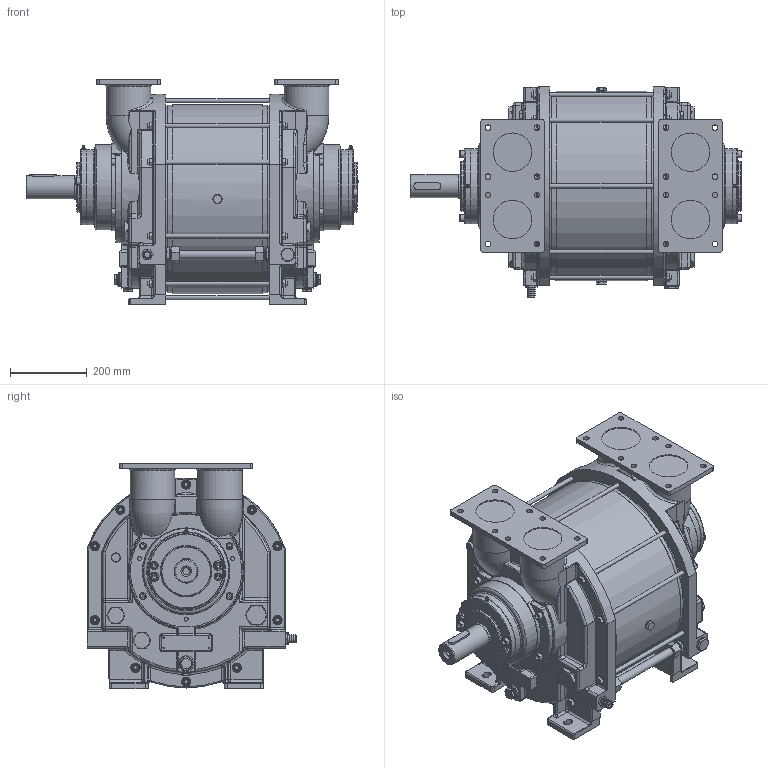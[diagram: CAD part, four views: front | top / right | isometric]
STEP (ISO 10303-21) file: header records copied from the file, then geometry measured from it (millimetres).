
FILE_DESCRIPTION(/* description */ ('','CAx-IF Rec.Pracs.---Representation and Presentation of Product Manufacturing Information (PMI)---4.0---2014-10-13'),/* implementation_level */ '2;1');
FILE_NAME(/* name */ 'E:\WorkSpace\Designs\1700\1700054.stp',/* time_stamp */ '2022-08-03T15:41:04+02:00',/* author */ ('JJ'),/* organization */ (''),/* preprocessor_version */ 'ST-DEVELOPER v18.1',/* originating_system */ 'Autodesk Inventor 2022',/* authorisation */ '');
FILE_SCHEMA (('AP242_MANAGED_MODEL_BASED_3D_ENGINEERING_MIM_LF { 1 0 10303 442 1 1 4 }'));
Products named in the file (1): 1700054
Bounding box: 862.5 x 545.5 x 585 mm (x, y, z)
Volume: 105802572.1 mm3; surface area: 2175311.5 mm2
Topology: 1 solids, 1 shells, 1939 faces, 4671 edges, 2840 vertices
Faces by surface type: plane 711, cylinder 595, cone 227, torus 192, bspline 142, sphere 72
Full cylindrical faces by diameter (mm): 3.3 x8, 8 x2, 10.106 x6, 10.75 x10, 12 x20, 13 x4, 15 x17, 17.294 x1, 18 x16, 19.847 x1, 19.984 x1, 20 x7, 21.8 x6, 22 x1, 23.8 x6, 24 x20, 24.5 x4, 26 x2, 27 x2, 28.58 x2, 30 x2, 31.8 x3, 34.93 x1, 35 x2, 39.8 x4, 42.8 x4, 49.8 x2, 52.38 x2, 60 x1, 62 x1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
Entity records: 65020 total; most frequent: CARTESIAN_POINT 19713, ORIENTED_EDGE 9196, DIRECTION 8977, EDGE_CURVE 4598, AXIS2_PLACEMENT_3D 3632, VERTEX_POINT 2840, EDGE_LOOP 2196, STYLED_ITEM 1941
